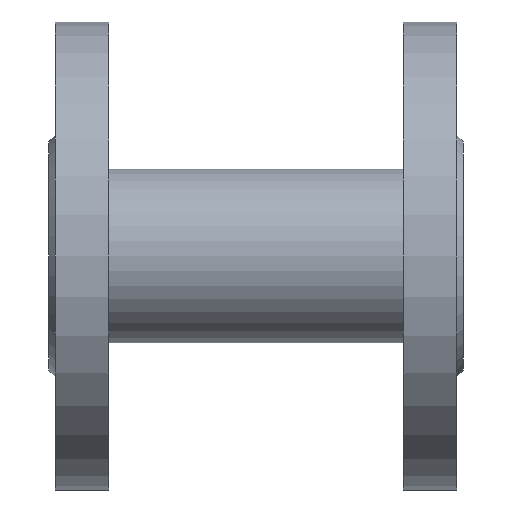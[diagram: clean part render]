
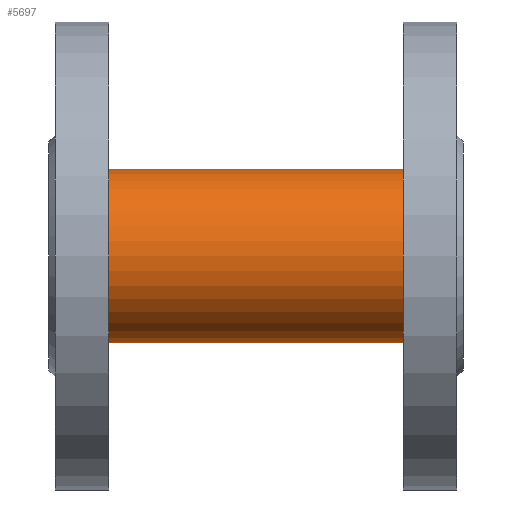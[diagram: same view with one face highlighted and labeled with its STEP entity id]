
A CAD part, front view. The second image highlights one B-rep face of the part: STEP entity #5697.
In plain terms, the highlighted cylindrical face has radius 26 mm (diameter 52 mm), a full revolution.
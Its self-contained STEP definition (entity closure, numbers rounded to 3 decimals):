
#1925=ELLIPSE('',#29330,36.77,26.);
#1926=ELLIPSE('',#29331,36.77,26.);
#1927=ELLIPSE('',#29332,36.77,26.);
#1928=ELLIPSE('',#29333,36.77,26.);
#2152=CYLINDRICAL_SURFACE('',#29336,26.);
#3135=FACE_BOUND('',#9742,.T.);
#3136=FACE_BOUND('',#9743,.T.);
#3137=FACE_BOUND('',#9744,.T.);
#4235=CIRCLE('',#29334,26.);
#4236=CIRCLE('',#29335,26.);
#5697=ADVANCED_FACE('',(#3135,#3136,#3137),#2152,.T.);
#9742=EDGE_LOOP('',(#15304,#15305,#15306,#15307,#15308,#15309));
#9743=EDGE_LOOP('',(#15310));
#9744=EDGE_LOOP('',(#15311));
#15304=ORIENTED_EDGE('',*,*,#22654,.T.);
#15305=ORIENTED_EDGE('',*,*,#22655,.T.);
#15306=ORIENTED_EDGE('',*,*,#22656,.T.);
#15307=ORIENTED_EDGE('',*,*,#22657,.T.);
#15308=ORIENTED_EDGE('',*,*,#22658,.T.);
#15309=ORIENTED_EDGE('',*,*,#22659,.T.);
#15310=ORIENTED_EDGE('',*,*,#22660,.F.);
#15311=ORIENTED_EDGE('',*,*,#22661,.F.);
#19406=VERTEX_POINT('',#47694);
#19407=VERTEX_POINT('',#47695);
#19408=VERTEX_POINT('',#47697);
#19409=VERTEX_POINT('',#47699);
#19410=VERTEX_POINT('',#47701);
#19411=VERTEX_POINT('',#47703);
#19412=VERTEX_POINT('',#47706);
#19413=VERTEX_POINT('',#47708);
#22654=EDGE_CURVE('',#19406,#19407,#1925,.T.);
#22655=EDGE_CURVE('',#19407,#19408,#1926,.T.);
#22656=EDGE_CURVE('',#19408,#19409,#25076,.T.);
#22657=EDGE_CURVE('',#19409,#19410,#1927,.T.);
#22658=EDGE_CURVE('',#19410,#19411,#1928,.T.);
#22659=EDGE_CURVE('',#19411,#19406,#25077,.T.);
#22660=EDGE_CURVE('',#19412,#19412,#4235,.T.);
#22661=EDGE_CURVE('',#19413,#19413,#4236,.T.);
#25076=LINE('',#47698,#27110);
#25077=LINE('',#47704,#27111);
#27110=VECTOR('',#34668,1.);
#27111=VECTOR('',#34673,1.);
#29330=AXIS2_PLACEMENT_3D('',#47693,#34664,#34665);
#29331=AXIS2_PLACEMENT_3D('',#47696,#34666,#34667);
#29332=AXIS2_PLACEMENT_3D('',#47700,#34669,#34670);
#29333=AXIS2_PLACEMENT_3D('',#47702,#34671,#34672);
#29334=AXIS2_PLACEMENT_3D('',#47705,#34674,#34675);
#29335=AXIS2_PLACEMENT_3D('',#47707,#34676,#34677);
#29336=AXIS2_PLACEMENT_3D('',#47709,#34678,#34679);
#34664=DIRECTION('',(-0.707,-0.707,0.));
#34665=DIRECTION('',(-0.707,0.707,0.));
#34666=DIRECTION('',(-0.707,-0.707,0.));
#34667=DIRECTION('',(-0.707,0.707,0.));
#34668=DIRECTION('',(1.,0.,0.));
#34669=DIRECTION('',(0.707,-0.707,0.));
#34670=DIRECTION('',(-0.707,-0.707,0.));
#34671=DIRECTION('',(0.707,-0.707,0.));
#34672=DIRECTION('',(-0.707,-0.707,0.));
#34673=DIRECTION('',(-1.,0.,0.));
#34674=DIRECTION('',(1.,0.,0.));
#34675=DIRECTION('',(0.,0.,1.));
#34676=DIRECTION('',(-1.,0.,0.));
#34677=DIRECTION('',(0.,0.,-1.));
#34678=DIRECTION('',(-1.,0.,0.));
#34679=DIRECTION('',(0.,0.,1.));
#47693=CARTESIAN_POINT('',(45.,-22.49,380.5));
#47694=CARTESIAN_POINT('',(20.,2.51,387.641));
#47695=CARTESIAN_POINT('',(19.,3.51,380.5));
#47696=CARTESIAN_POINT('',(45.,-22.49,380.5));
#47697=CARTESIAN_POINT('',(20.,2.51,373.359));
#47698=CARTESIAN_POINT('',(20.,2.51,373.359));
#47699=CARTESIAN_POINT('',(70.,2.51,373.359));
#47700=CARTESIAN_POINT('',(45.,-22.49,380.5));
#47701=CARTESIAN_POINT('',(71.,3.51,380.5));
#47702=CARTESIAN_POINT('',(45.,-22.49,380.5));
#47703=CARTESIAN_POINT('',(70.,2.51,387.641));
#47704=CARTESIAN_POINT('',(70.,2.51,387.641));
#47705=CARTESIAN_POINT('',(89.,-22.49,380.5));
#47706=CARTESIAN_POINT('',(89.,-22.49,406.5));
#47707=CARTESIAN_POINT('',(1.,-22.49,380.5));
#47708=CARTESIAN_POINT('',(1.,-22.49,354.5));
#47709=CARTESIAN_POINT('',(76.,-22.49,380.5));
